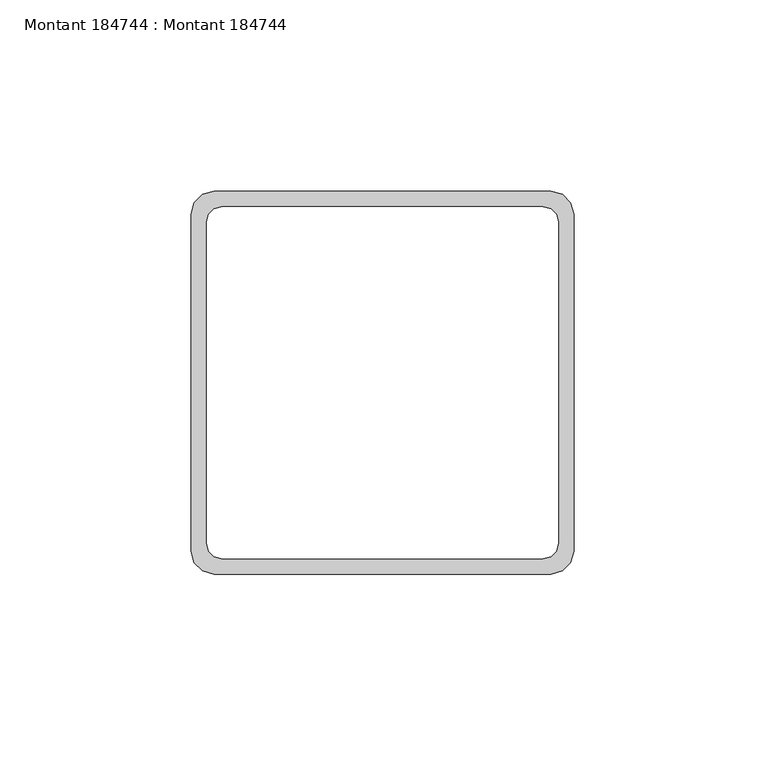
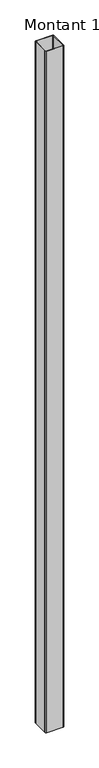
"""IFC4 building model written with IfcOpenShell, lengths in millimetres: beam geometry, Montant 184744 : Montant 184744."""

from ifc_helpers import new_model, si_unit, frame, origin, place, context, project, spatial, polyline, outline, extrude, source, transform, mapped, element, save


def montant_184744_montant_184744_b51f4d01(model_context):
    return source(origin(), model_context, "Body", "SweptSolid", [
        extrude(outline(polyline([(425.9999999, -5.0), (422.9999999, -4.1961524), (420.8038474, -2.0), (419.9999999, 1.0), (419.9999999, 89.0), (420.8038474, 92.0), (422.9999999, 94.1961524), (425.9999999, 95.0), (513.9999999, 95.0), (516.9999999, 94.1961524), (519.1961523, 92.0), (519.9999999, 89.0), (519.9999999, 1.0), (519.1961523, -2.0), (516.9999999, -4.1961524), (513.9999999, -5.0), (425.9999999, -5.0)]), holes=[polyline([(511.9999999, -1.0), (513.9999999, -0.4641016), (515.4641015, 1.0), (515.9999999, 3.0), (515.9999999, 87.0), (515.4641015, 89.0), (513.9999999, 90.4641016), (511.9999999, 91.0), (427.9999999, 91.0), (425.9999999, 90.4641016), (424.5358983, 89.0), (423.9999999, 87.0), (423.9999999, 3.0), (424.5358983, 1.0), (425.9999999, -0.4641016), (427.9999999, -1.0), (511.9999999, -1.0)])]), frame((0.0, 0.0, 3200.0), z_axis=(0.0, 0.0, 1.0), x_axis=(1.0, 0.0, 0.0)), (0.0, 0.0, 1.0), 3900.0),
    ])


if __name__ == "__main__":
    model = new_model("IFC4")
    model_context = context("Model", 3, world=origin())
    ifc_project = project(units=[si_unit("LENGTHUNIT", "METRE", prefix="MILLI")], contexts=[model_context])
    site = spatial("IfcSite", under=ifc_project)
    building = spatial("IfcBuilding", under=site)
    placement = place(None, origin())
    montant_184744_montant_184744_shape = montant_184744_montant_184744_b51f4d01(model_context)
    element("IfcBeam", 1, ObjectType="Montant 184744 : Montant 184744", at=placement, inside=building, context=model_context, shape_type="MappedRepresentation", body=[
        mapped(montant_184744_montant_184744_shape, transform((0.0, 0.0, 0.0), x_axis=(1.0, 0.0, 0.0), y_axis=(0.0, 1.0, 0.0), z_axis=(0.0, 0.0, 1.0))),
    ])
    save(model, "model.ifc")
